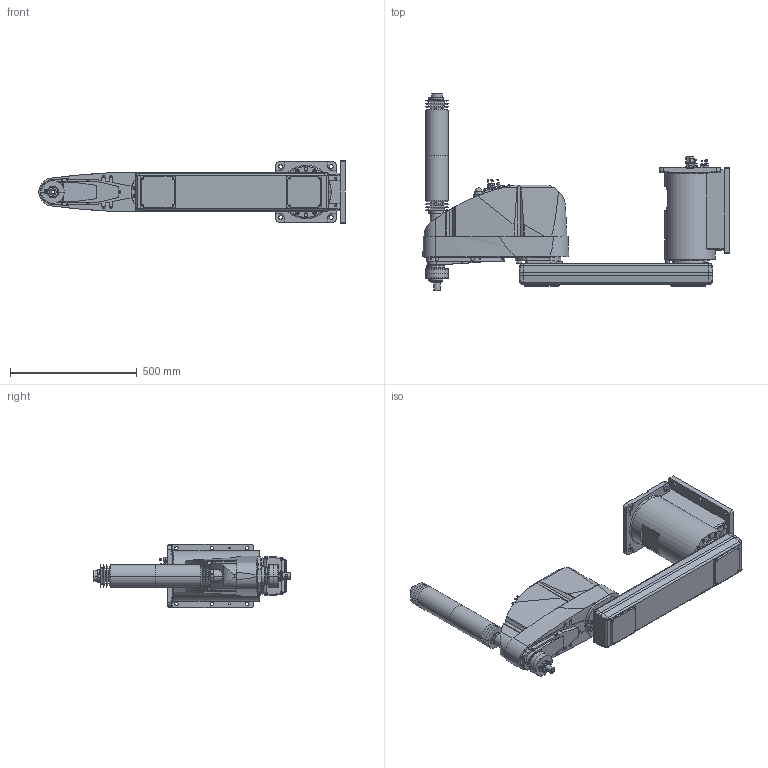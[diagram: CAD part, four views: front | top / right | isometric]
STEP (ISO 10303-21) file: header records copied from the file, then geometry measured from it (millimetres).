
FILE_DESCRIPTION( ( '' ), '1' );
FILE_NAME( '//expscmdclustefs.cadenas.external/client_exchange/iodir/jobs/output/wkb51494132_no0/STEP/G20_A04PW_2_14b.stp', '2012-11-22T09:52:48', ( '' ), ( '' ), ' ', ' ', ' ' );
FILE_SCHEMA( ( 'automotive_design' ) );
Length unit declared in the file: millimetre
Products named in the file (8): 1; 2; 3; 4; 5; 6; 7; 8
Bounding box: 1210.5 x 777.5 x 250 mm (x, y, z)
Volume: 46704845.5 mm3; surface area: 1908260.9 mm2
Topology: 8 solids, 8 shells, 2143 faces, 5150 edges, 3308 vertices
Faces by surface type: plane 1091, cylinder 732, cone 292, torus 27, sphere 1
Entity records: 123576 total; most frequent: CARTESIAN_POINT 12702, DIRECTION 11122, STYLED_ITEM 10593, PRESENTATION_STYLE_ASSIGNMENT 10593, COLOUR_RGB 10593, ORIENTED_EDGE 10268, EDGE_CURVE 5134, CURVE_STYLE 5134
